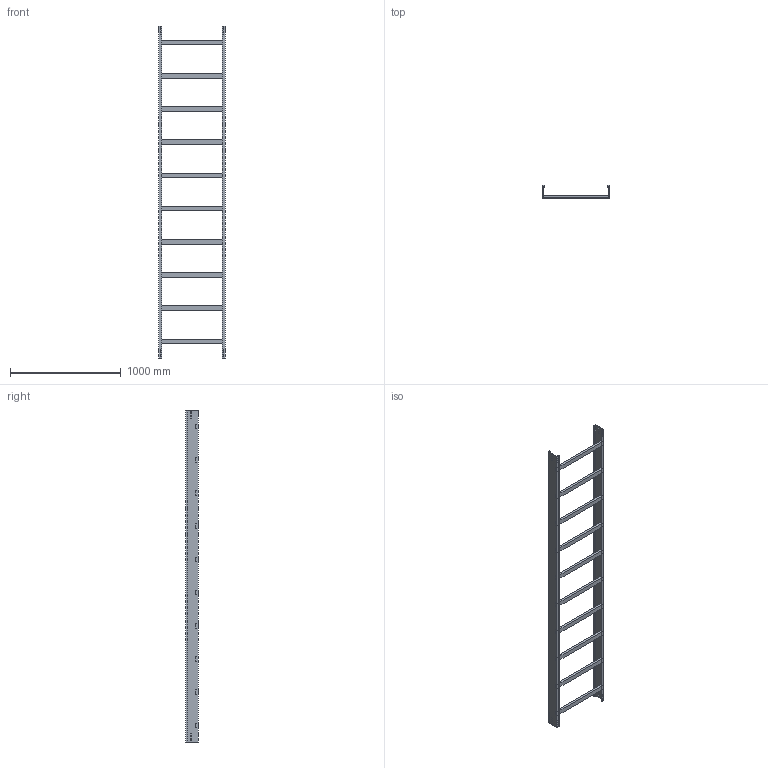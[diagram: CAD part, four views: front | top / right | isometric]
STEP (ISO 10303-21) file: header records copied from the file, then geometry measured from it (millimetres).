
FILE_DESCRIPTION (( 'STEP AP214' ), '1' );
FILE_NAME ('01B3J600.step', '2025-02-21T16:00:24', ( '' ), ( '' ), 'SwSTEP 2.0', 'SolidWorks 2023', '' );
FILE_SCHEMA (( 'AUTOMOTIVE_DESIGN' ));
Length unit declared in the file: millimetre
Products named in the file (3): TRAVERSINO_600; 01B3J600; LONGH.H112.5
Assembly tree (12 placements, depth 2):
  01B3J600
    LONGH.H112.5  x2
    TRAVERSINO_600  x10
Bounding box: 600 x 112.5 x 3000 mm (x, y, z)
Volume: 7624672 mm3; surface area: 2602156 mm2
Topology: 12 solids, 12 shells, 144 faces, 360 edges, 240 vertices
Faces by surface type: plane 144
Entity records: 1696 total; most frequent: CARTESIAN_POINT 283, ORIENTED_EDGE 264, DIRECTION 258, LINE 132, EDGE_CURVE 132, VECTOR 132, VERTEX_POINT 88, EDGE_LOOP 64
